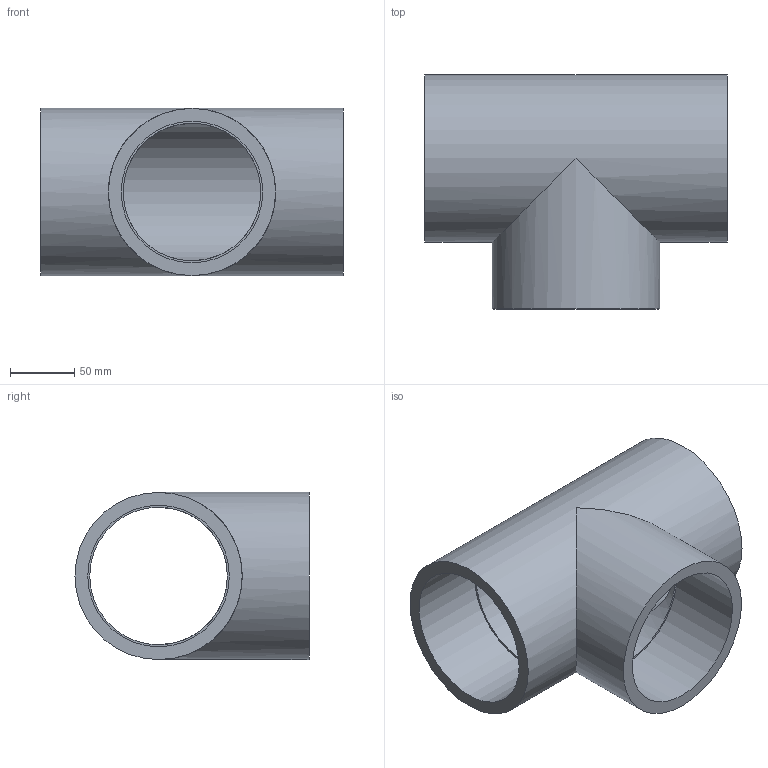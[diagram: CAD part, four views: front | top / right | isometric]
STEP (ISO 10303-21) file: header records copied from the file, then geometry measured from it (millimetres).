
FILE_DESCRIPTION(/* description */ ('PVC ti a 90° incollaggio metrico'),/* implementation_level */ '2;1');
FILE_NAME(/* name */ 'C:\Users\POLYPIPE\Desktop\DATASET INVENTOR\LIBRERIA EFFAST\RACCORDI 3DxWEB\RDR\3D_RDRTID\3D_RDRTID1100.stp',/* time_stamp */ '2018-01-19T15:38:53+01:00',/* author */ ('POLYPIPE'),/* organization */ ('Polypipe Italia s.r.l.'),/* preprocessor_version */ 'ST-DEVELOPER v16.1',/* originating_system */ 'Autodesk Inventor 2016',/* authorisation */ '');
FILE_SCHEMA (('CONFIG_CONTROL_DESIGN'));
Length unit declared in the file: millimetre
Products named in the file (1): 3D_RDRTID
Bounding box: 235 x 182 x 130 mm (x, y, z)
Volume: 1089432 mm3; surface area: 219954.6 mm2
Topology: 1 solids, 1 shells, 13 faces, 25 edges, 18 vertices
Faces by surface type: cylinder 7, plane 6
Full cylindrical faces by diameter (mm): 107 x2, 110 x3, 130 x2
Entity records: 326 total; most frequent: DIRECTION 60, CARTESIAN_POINT 46, ORIENTED_EDGE 32, AXIS2_PLACEMENT_3D 30, EDGE_LOOP 28, VERTEX_POINT 16, EDGE_CURVE 16, FACE_BOUND 15
